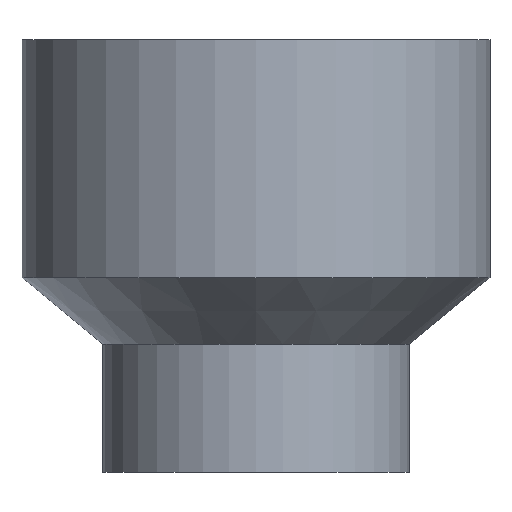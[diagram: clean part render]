
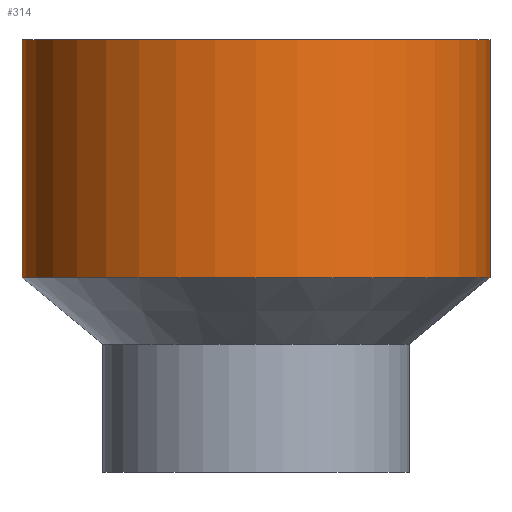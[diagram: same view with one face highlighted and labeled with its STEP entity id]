
A CAD part, front view. The second image highlights one B-rep face of the part: STEP entity #314.
In plain terms, the highlighted cylindrical face has radius 25.9 mm (diameter 51.8 mm), a partial arc.
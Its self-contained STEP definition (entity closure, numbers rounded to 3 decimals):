
#3 = DIRECTION ( 'NONE',  ( 0., 0., 1. ) ) ;
#37 = DIRECTION ( 'NONE',  ( -1., 0., 0. ) ) ;
#38 = EDGE_CURVE ( 'NONE', #291, #494, #184, .T. ) ;
#64 = CARTESIAN_POINT ( 'NONE',  ( -25.9, 0., 21.55 ) ) ;
#66 = CARTESIAN_POINT ( 'NONE',  ( 25.9, 0., 47.9 ) ) ;
#81 = DIRECTION ( 'NONE',  ( 0., 0., -1. ) ) ;
#82 = VERTEX_POINT ( 'NONE', #64 ) ;
#98 = VECTOR ( 'NONE', #183, 1000. ) ;
#132 = ORIENTED_EDGE ( 'NONE', *, *, #365, .F. ) ;
#146 = CARTESIAN_POINT ( 'NONE',  ( -25.9, 0., 47.9 ) ) ;
#160 = AXIS2_PLACEMENT_3D ( 'NONE', #401, #444, #37 ) ;
#162 = EDGE_LOOP ( 'NONE', ( #332, #132, #421, #209 ) ) ;
#183 = DIRECTION ( 'NONE',  ( 0., 0., -1. ) ) ;
#184 = LINE ( 'NONE', #66, #227 ) ;
#209 = ORIENTED_EDGE ( 'NONE', *, *, #241, .F. ) ;
#227 = VECTOR ( 'NONE', #272, 1000. ) ;
#241 = EDGE_CURVE ( 'NONE', #494, #82, #264, .T. ) ;
#243 = CARTESIAN_POINT ( 'NONE',  ( 0., 0., 47.9 ) ) ;
#257 = VERTEX_POINT ( 'NONE', #439 ) ;
#264 = CIRCLE ( 'NONE', #160, 25.9 ) ;
#272 = DIRECTION ( 'NONE',  ( 0., 0., -1. ) ) ;
#282 = CYLINDRICAL_SURFACE ( 'NONE', #286, 25.9 ) ;
#286 = AXIS2_PLACEMENT_3D ( 'NONE', #243, #81, #364 ) ;
#287 = CARTESIAN_POINT ( 'NONE',  ( 25.9, 0., 47.9 ) ) ;
#291 = VERTEX_POINT ( 'NONE', #287 ) ;
#314 = ADVANCED_FACE ( 'NONE', ( #407 ), #282, .T. ) ;
#323 = CIRCLE ( 'NONE', #389, 25.9 ) ;
#332 = ORIENTED_EDGE ( 'NONE', *, *, #38, .F. ) ;
#362 = DIRECTION ( 'NONE',  ( 1., 0., 0. ) ) ;
#364 = DIRECTION ( 'NONE',  ( -1., 0., 0. ) ) ;
#365 = EDGE_CURVE ( 'NONE', #257, #291, #323, .T. ) ;
#389 = AXIS2_PLACEMENT_3D ( 'NONE', #448, #3, #362 ) ;
#401 = CARTESIAN_POINT ( 'NONE',  ( 0., 0., 21.55 ) ) ;
#407 = FACE_OUTER_BOUND ( 'NONE', #162, .T. ) ;
#421 = ORIENTED_EDGE ( 'NONE', *, *, #476, .T. ) ;
#439 = CARTESIAN_POINT ( 'NONE',  ( -25.9, 0., 47.9 ) ) ;
#444 = DIRECTION ( 'NONE',  ( 0., 0., -1. ) ) ;
#448 = CARTESIAN_POINT ( 'NONE',  ( 0., 0., 47.9 ) ) ;
#463 = CARTESIAN_POINT ( 'NONE',  ( 25.9, 0., 21.55 ) ) ;
#476 = EDGE_CURVE ( 'NONE', #257, #82, #515, .T. ) ;
#494 = VERTEX_POINT ( 'NONE', #463 ) ;
#515 = LINE ( 'NONE', #146, #98 ) ;
